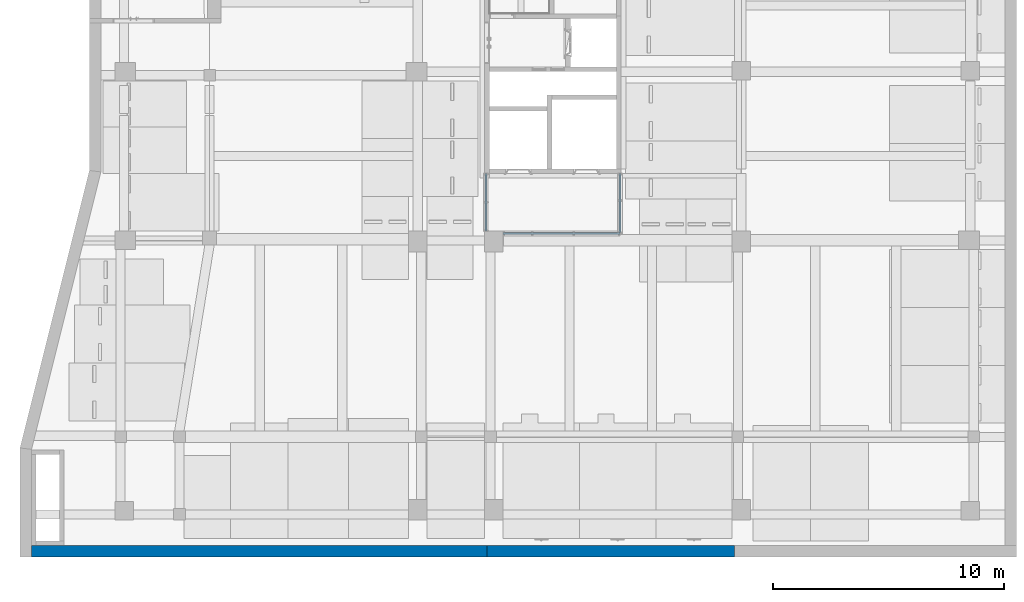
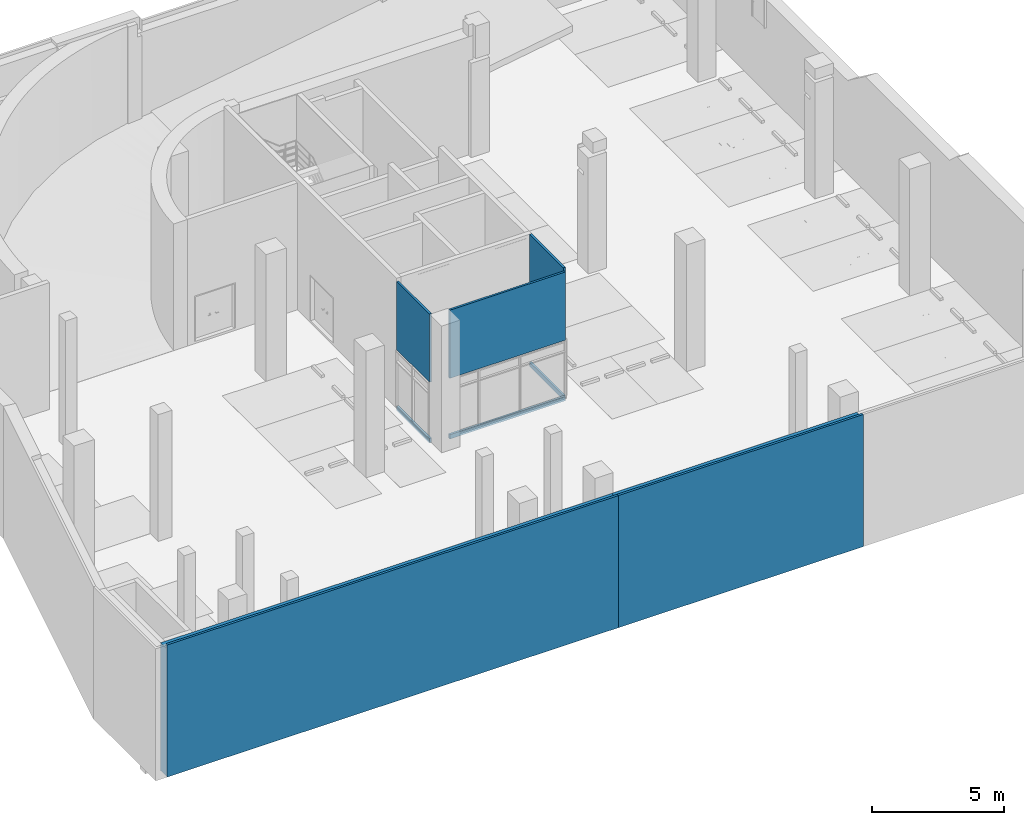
# One storey, part 8 of 29: 5 walls, 3 openings.
"""IFC2X3 building model written with IfcOpenShell, lengths in millimetres."""

from ifc_helpers import new_model, entity, si_unit, converted_unit, derived_unit, direction, frame, frame_2d, origin, origin_2d_with_axis, place, context, subcontext, project, spatial, polyline, rectangle, extrude, clip, bounded_halfspace, material, layer, layer_set, layer_usage, type_object, element, save


model = new_model("IFC2X3")

# Units and contexts
model_context = context("Model", 3, precision=0.01, world=origin(), true_north=direction((6.123031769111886e-17, 1.0)))
body_context = subcontext(model_context, "Body", "Model", "MODEL_VIEW")
ifc_project = project(units=[si_unit("LENGTHUNIT", "METRE", prefix="MILLI"), si_unit("AREAUNIT", "SQUARE_METRE"), si_unit("VOLUMEUNIT", "CUBIC_METRE"), converted_unit("PLANEANGLEUNIT", "DEGREE", entity("IfcRatioMeasure", 0.017453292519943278), si_unit("PLANEANGLEUNIT", "RADIAN"), dimensions=[0, 0, 0, 0, 0, 0, 0]), si_unit("MASSUNIT", "GRAM", prefix="KILO"), derived_unit("MASSDENSITYUNIT", [(si_unit("MASSUNIT", "GRAM", prefix="KILO"), 1), (si_unit("LENGTHUNIT", "METRE"), -3)]), derived_unit("MOMENTOFINERTIAUNIT", [(si_unit("LENGTHUNIT", "METRE"), 4)]), si_unit("TIMEUNIT", "SECOND"), si_unit("FREQUENCYUNIT", "HERTZ"), si_unit("THERMODYNAMICTEMPERATUREUNIT", "DEGREE_CELSIUS"), derived_unit("THERMALTRANSMITTANCEUNIT", [(si_unit("MASSUNIT", "GRAM", prefix="KILO"), 1), (si_unit("THERMODYNAMICTEMPERATUREUNIT", "KELVIN"), -1), (si_unit("TIMEUNIT", "SECOND"), -3)]), derived_unit("VOLUMETRICFLOWRATEUNIT", [(si_unit("LENGTHUNIT", "METRE"), 3), (si_unit("TIMEUNIT", "SECOND"), -1)]), derived_unit("MASSFLOWRATEUNIT", [(si_unit("MASSUNIT", "GRAM", prefix="KILO"), 1), (si_unit("TIMEUNIT", "SECOND"), -1)]), derived_unit("ROTATIONALFREQUENCYUNIT", [(si_unit("TIMEUNIT", "SECOND"), -1)]), si_unit("ELECTRICCURRENTUNIT", "AMPERE"), si_unit("ELECTRICVOLTAGEUNIT", "VOLT"), si_unit("POWERUNIT", "WATT"), si_unit("FORCEUNIT", "NEWTON", prefix="KILO"), si_unit("ILLUMINANCEUNIT", "LUX"), si_unit("LUMINOUSFLUXUNIT", "LUMEN"), si_unit("LUMINOUSINTENSITYUNIT", "CANDELA"), derived_unit("USERDEFINED", [(si_unit("MASSUNIT", "GRAM", prefix="KILO"), -1), (si_unit("LENGTHUNIT", "METRE"), -2), (si_unit("TIMEUNIT", "SECOND"), 3), (si_unit("LUMINOUSFLUXUNIT", "LUMEN"), 1)]), derived_unit("SOUNDPOWERUNIT", [(si_unit("MASSUNIT", "GRAM", prefix="KILO"), 1), (si_unit("LENGTHUNIT", "METRE"), 2), (si_unit("TIMEUNIT", "SECOND"), -3)]), derived_unit("SOUNDPRESSUREUNIT", [(si_unit("MASSUNIT", "GRAM", prefix="KILO"), 1), (si_unit("LENGTHUNIT", "METRE"), -1), (si_unit("TIMEUNIT", "SECOND"), -2)]), derived_unit("LINEARVELOCITYUNIT", [(si_unit("LENGTHUNIT", "METRE"), 1), (si_unit("TIMEUNIT", "SECOND"), -1)]), si_unit("PRESSUREUNIT", "PASCAL"), derived_unit("USERDEFINED", [(si_unit("LENGTHUNIT", "METRE"), -2), (si_unit("MASSUNIT", "GRAM", prefix="KILO"), 1), (si_unit("TIMEUNIT", "SECOND"), -2)]), derived_unit("LINEARFORCEUNIT", [(si_unit("MASSUNIT", "GRAM", prefix="KILO"), 1), (si_unit("LENGTHUNIT", "METRE"), 1), (si_unit("TIMEUNIT", "SECOND"), -2), (si_unit("LENGTHUNIT", "METRE"), -1)]), derived_unit("PLANARFORCEUNIT", [(si_unit("MASSUNIT", "GRAM", prefix="KILO"), 1), (si_unit("LENGTHUNIT", "METRE"), 1), (si_unit("TIMEUNIT", "SECOND"), -2), (si_unit("LENGTHUNIT", "METRE"), -2)])], contexts=[model_context])

# Site, building, storey
site_placement = place(None, frame((-14167.972527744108, -657.2125860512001, 0.0)))
site = spatial("IfcSite", under=ifc_project, at=site_placement, Name="Default", CompositionType="ELEMENT")
building_placement = place(site_placement, origin())
building = spatial("IfcBuilding", under=site, at=building_placement, Name="Sample Building", CompositionType="ELEMENT")
storey_placement = place(building_placement, frame((0.0, 0.0, -6100.0)))
storey = spatial("IfcBuildingStorey", under=building, at=storey_placement, Name="지하1층", CompositionType="ELEMENT", Elevation=-6099.999999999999)

# Wall
ifc_material_1 = material(Name="KBIMS-콘크리트")
ifc_layer_1 = layer(ifc_material_1, 500.00000000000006)
ifc_layer_set_1 = layer_set([ifc_layer_1], Name="기본 벽:WA111-철근콘크리트구조 벽 500mm_BW1")
ifc_layer_usage_1 = layer_usage(ifc_layer_set_1, "AXIS2", "NEGATIVE", 250.00000000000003)
wall_type_1 = type_object("IfcWallType", Name="기본 벽:WA111-철근콘크리트구조 벽 500mm_BW1", PredefinedType="STANDARD", material=ifc_layer_set_1)
wall_1_placement = place(storey_placement, frame((30167.97249113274, -792.7876920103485, 0.0), z_axis=(0.0, 0.0, 1.0), x_axis=(-1.0, 0.0, 0.0)))
element("IfcWallStandardCase", 1, at=wall_1_placement, inside=storey, type_object=wall_type_1, material=ifc_layer_usage_1, Name="기본 벽:WA111-철근콘크리트구조 벽 500mm_BW1", ObjectType="기본 벽:WA111-철근콘크리트구조 벽 500mm_BW1", context=body_context, shape_type="Clipping", body=[
    clip(clip(extrude(rectangle(XDim=19700.000000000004, YDim=500.0, at=frame_2d((9850.000000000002, 4.263256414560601e-14), x_axis=(-1.0, 0.0))), origin(), (0.0, 0.0, 1.0), 6100.0), bounded_halfspace(frame((0.0, 150.00001284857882, 5900.0), z_axis=(0.0, 0.0, -1.0), x_axis=(0.0, 1.0, 0.0)), True, frame((0.0, 150.00001284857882, 5900.0), z_axis=(0.0, 0.0, -1.0), x_axis=(0.0, 1.0, 0.0)), polyline([(0.0, 0.0), (-1.0135636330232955e-09, 4907285.299243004), (-1.3600811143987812e-09, 6004560.0), (-121920.00391624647, 6004560.0), (-121920.00391624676, 914410.5873267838), (-121920.00391624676, 891459.3148748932), (-121920.00391624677, 769539.3148748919), (-121920.00391624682, 0.0), (0.0, 0.0)]))), bounded_halfspace(frame((0.0, 150.00001284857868, 5900.0), z_axis=(0.0, 1.0, 0.0), x_axis=(0.0, 0.0, 1.0)), True, frame((0.0, 150.00001284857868, 5900.0), z_axis=(0.0, 1.0, 0.0), x_axis=(0.0, 0.0, 1.0)), polyline([(0.0, 0.0), (60960.0, 0.0), (60960.0, 4907285.299243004), (60960.0, 6004560.0), (0.0, 6004560.0), (0.0, 4907285.299243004), (0.0, 0.0)]))),
])

# Wall, opening
ifc_material_2 = material(Name="KBIMS-시멘트 벽돌")
ifc_layer_2 = layer(ifc_material_2, 90.0)
ifc_layer_set_2 = layer_set([ifc_layer_2], Name="기본 벽:WA211-시멘트벽돌(일반) 벽 (0.5B) 90mm")
ifc_layer_usage_2 = layer_usage(ifc_layer_set_2, "AXIS2", "NEGATIVE", 45.0)
wall_type_2 = type_object("IfcWallType", Name="기본 벽:WA211-시멘트벽돌(일반) 벽 (0.5B) 90mm", PredefinedType="STANDARD", material=ifc_layer_set_2)
wall_2_placement = place(storey_placement, frame((30116.125814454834, 15553.302947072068, 0.0), z_axis=(0.0, 0.0, 1.0), x_axis=(0.0, -1.0, 0.0)))
wall_2 = element("IfcWallStandardCase", 2, at=wall_2_placement, inside=storey, type_object=wall_type_2, material=ifc_layer_usage_2, Name="기본 벽:WA211-시멘트벽돌(일반) 벽 (0.5B) 90mm", ObjectType="기본 벽:WA211-시멘트벽돌(일반) 벽 (0.5B) 90mm", context=body_context, shape_type="SweptSolid", body=[
    extrude(rectangle(XDim=2478.1080686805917, YDim=90.0000000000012, at=frame_2d((1239.0540343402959, -2.184918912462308e-12), x_axis=(-1.0, 0.0))), origin(), (0.0, 0.0, 1.0), 5950.000000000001),
])
opening_1_placement = place(wall_2_placement, origin())
element("IfcOpeningElement", 3, at=opening_1_placement, cuts=wall_2, Name="기본 벽:WA211-시멘트벽돌(일반) 벽 (0.5B) 90mm", ObjectType="Opening", context=body_context, shape_type="SweptSolid", body=[
    extrude(rectangle(XDim=2600.0, YDim=2496.090639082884, at=frame_2d((0.0, -1.0231815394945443e-12), x_axis=(1.0, 0.0))), frame((1248.0453195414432, -197.40000000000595, 1500.0), z_axis=(0.0, 1.0, 0.0), x_axis=(0.0, 0.0, 1.0)), (0.0, 0.0, 1.0), 394.8000000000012),
])

ifc_layer_usage_3 = layer_usage(ifc_layer_set_2, "AXIS2", "NEGATIVE", 45.0)
wall_3_placement = place(storey_placement, frame((30867.972463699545, 12957.21258605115, 0.0)))
wall_3 = element("IfcWallStandardCase", 4, at=wall_3_placement, inside=storey, type_object=wall_type_2, material=ifc_layer_usage_3, Name="기본 벽:WA211-시멘트벽돌(일반) 벽 (0.5B) 90mm", ObjectType="기본 벽:WA211-시멘트벽돌(일반) 벽 (0.5B) 90mm", context=body_context, shape_type="SweptSolid", body=[
    extrude(rectangle(XDim=5050.000027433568, YDim=89.99999999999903, at=frame_2d((2525.000013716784, 1.0160761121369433e-12), x_axis=(-1.0, 0.0))), origin(), (0.0, 0.0, 1.0), 5950.000000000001),
])
opening_2_placement = place(wall_3_placement, origin())
element("IfcOpeningElement", 5, at=opening_2_placement, cuts=wall_3, Name="기본 벽:WA211-시멘트벽돌(일반) 벽 (0.5B) 90mm", ObjectType="Opening", context=body_context, shape_type="SweptSolid", body=[
    extrude(rectangle(XDim=2600.0, YDim=5050.000000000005, at=origin_2d_with_axis()), frame((2525.000027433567, -197.39999999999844, 1500.0), z_axis=(0.0, 1.0, 0.0), x_axis=(0.0, 0.0, 1.0)), (0.0, 0.0, 1.0), 394.79999999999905),
])

ifc_layer_usage_4 = layer_usage(ifc_layer_set_2, "AXIS2", "NEGATIVE", 45.0)
wall_4_placement = place(storey_placement, frame((35917.97249113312, 15553.302947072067, 0.0), z_axis=(0.0, 0.0, 1.0), x_axis=(0.0, -1.0, 0.0)))
wall_4 = element("IfcWallStandardCase", 6, at=wall_4_placement, inside=storey, type_object=wall_type_2, material=ifc_layer_usage_4, Name="기본 벽:WA211-시멘트벽돌(일반) 벽 (0.5B) 90mm", ObjectType="기본 벽:WA211-시멘트벽돌(일반) 벽 (0.5B) 90mm", context=body_context, shape_type="SweptSolid", body=[
    extrude(rectangle(XDim=2551.0903610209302, YDim=90.0000000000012, at=frame_2d((1275.5451805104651, -2.319922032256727e-12), x_axis=(-1.0, 0.0))), origin(), (0.0, 0.0, 1.0), 6099.999999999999),
])
opening_3_placement = place(wall_4_placement, origin())
element("IfcOpeningElement", 7, at=opening_3_placement, cuts=wall_4, Name="기본 벽:WA211-시멘트벽돌(일반) 벽 (0.5B) 90mm", ObjectType="Opening", context=body_context, shape_type="SweptSolid", body=[
    extrude(rectangle(XDim=2600.0, YDim=2596.090361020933, at=origin_2d_with_axis()), frame((1298.0451805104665, -197.40000000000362, 1500.0), z_axis=(0.0, 1.0, 0.0), x_axis=(0.0, 0.0, 1.0)), (0.0, 0.0, 1.0), 394.8000000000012),
])

# Wall
ifc_layer_3 = layer(ifc_material_1, 500.00000000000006)
ifc_layer_set_3 = layer_set([ifc_layer_3], Name="기본 벽:WA111-철근콘크리트구조 벽 500mm_BW2")
ifc_layer_usage_5 = layer_usage(ifc_layer_set_3, "AXIS2", "NEGATIVE", 250.00000000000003)
wall_type_3 = type_object("IfcWallType", Name="기본 벽:WA111-철근콘크리트구조 벽 500mm_BW2", PredefinedType="STANDARD", material=ifc_layer_set_3)
wall_5_placement = place(storey_placement, frame((40867.97249113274, -792.7876920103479, 0.0), z_axis=(0.0, 0.0, 1.0), x_axis=(-1.0, 0.0, 0.0)))
element("IfcWallStandardCase", 8, at=wall_5_placement, inside=storey, type_object=wall_type_3, material=ifc_layer_usage_5, Name="기본 벽:WA111-철근콘크리트구조 벽 500mm_BW2", ObjectType="기본 벽:WA111-철근콘크리트구조 벽 500mm_BW2", context=body_context, shape_type="Clipping", body=[
    clip(clip(extrude(rectangle(XDim=10700.000000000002, YDim=500.0, at=frame_2d((5350.000000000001, 0.0), x_axis=(-1.0, 0.0))), origin(), (0.0, 0.0, 1.0), 6100.0), bounded_halfspace(frame((10700.0, 150.00001284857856, 5900.0), z_axis=(0.0, 0.0, -1.0), x_axis=(0.0, -1.0, 0.0)), True, frame((10700.0, 150.00001284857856, 5900.0), z_axis=(0.0, 0.0, -1.0), x_axis=(0.0, -1.0, 0.0)), polyline([(0.0, 0.0), (121920.00391624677, 0.0), (121920.00391624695, 3230982.552522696), (121920.00391624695, 3253933.824974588), (121920.00391624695, 3261360.0), (0.0, 3261360.0), (0.0, 0.0)]))), bounded_halfspace(frame((0.0, 150.00001284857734, 5900.0), z_axis=(0.0, 1.0, 0.0), x_axis=(0.0, 0.0, 1.0)), True, frame((0.0, 150.00001284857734, 5900.0), z_axis=(0.0, 1.0, 0.0), x_axis=(0.0, 0.0, 1.0)), polyline([(0.0, 0.0), (60960.0, 0.0), (60960.0, 3261360.0), (0.0, 3261360.0), (0.0, 0.0)]))),
])

save(model, "model.ifc")
